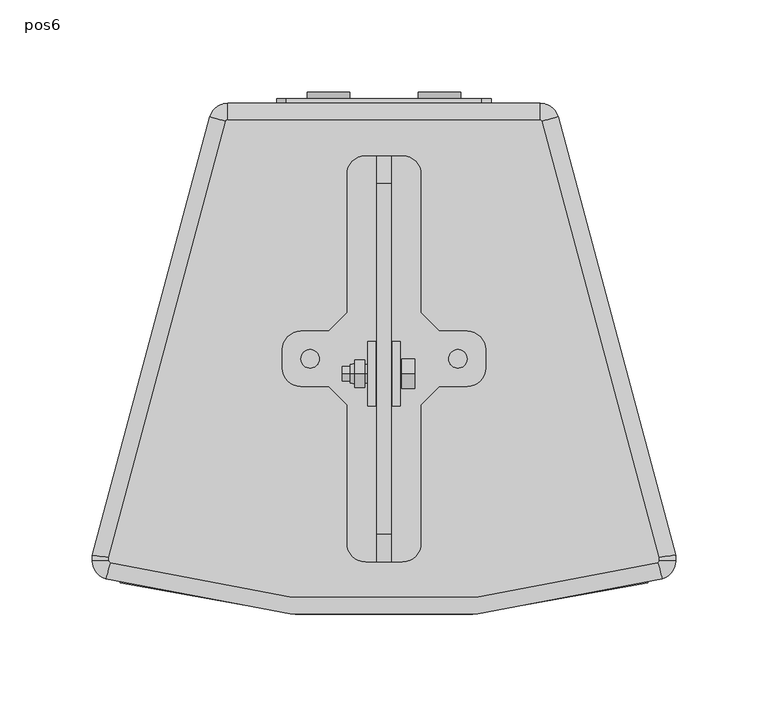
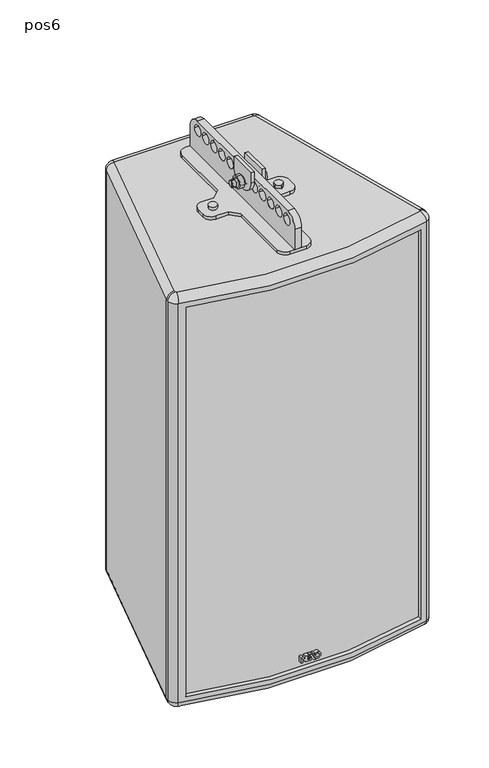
"""IFC4 building model written with IfcOpenShell, lengths in millimetres: proxy geometry, ePS10-BUMP-CVM : pos6."""

from ifc_helpers import new_model, si_unit, point, frame, frame_2d, origin, place, context, project, spatial, polyline, circle_curve, ellipse_curve, trimmed, segment, composite_curve, outline, extrude, source, transform, mapped, element, save
from ifc_brep_helpers import plane_surface, cylinder_surface, revolved_surface, advanced_brep


def pos6_98ff1bd9(model_context):
    return source(origin(), model_context, "Body", "SolidModel", [
        extrude(outline(composite_curve([segment(trimmed(circle_curve(frame_2d((-40.0511607, 8.0259228)), 5.0), [point((-45.0511607, 8.0259228))], [point((-35.0511607, 8.0259228))], False, "CARTESIAN"), True, "CONTINUOUS"), segment(trimmed(circle_curve(frame_2d((-40.0511607, 8.0259228)), 5.0), [point((-35.0511607, 8.0259228))], [point((-45.0511607, 8.0259228))], False, "CARTESIAN"), True, "CONTINUOUS")], self_intersect=False)), frame((0.0, 0.0, -86.0), z_axis=(0.0, 0.0, 1.0), x_axis=(1.0, 0.0, 0.0)), (0.0, 0.0, 1.0), 4.0),
        extrude(outline(composite_curve([segment(trimmed(circle_curve(frame_2d((40.0511607, 8.0259228)), 5.0), [point((45.0511607, 8.0259228))], [point((35.0511607, 8.0259228))], False, "CARTESIAN"), True, "CONTINUOUS"), segment(trimmed(circle_curve(frame_2d((40.0511607, 8.0259228)), 5.0), [point((35.0511607, 8.0259228))], [point((45.0511607, 8.0259228))], False, "CARTESIAN"), True, "CONTINUOUS")], self_intersect=False)), frame((0.0, 0.0, -86.0), z_axis=(0.0, 0.0, 1.0), x_axis=(1.0, 0.0, 0.0)), (0.0, 0.0, 1.0), 4.0),
        extrude(outline(composite_curve([segment(trimmed(circle_curve(frame_2d((103.0259228, -60.0)), 15.0), [point((103.0259228, -45.0))], [point((118.0259228, -60.0))], False, "CARTESIAN"), True, "CONTINUOUS"), segment(polyline([(118.0259228, -60.0), (118.0259228, -86.0), (-101.9740772, -86.0), (-101.9740772, -60.0)]), True, "CONTINUOUS"), segment(trimmed(circle_curve(frame_2d((-86.9740772, -60.0)), 15.0), [point((-101.9740772, -60.0))], [point((-86.9740772, -45.0))], False, "CARTESIAN"), True, "CONTINUOUS"), segment(polyline([(-86.9740772, -45.0), (103.0259228, -45.0)]), True, "CONTINUOUS")], self_intersect=False), holes=[composite_curve([segment(trimmed(circle_curve(frame_2d((0.0, -57.0)), 6.5), [point((-6.5, -57.0))], [point((6.5, -57.0))], True, "CARTESIAN"), True, "CONTINUOUS"), segment(trimmed(circle_curve(frame_2d((0.0, -57.0)), 6.5), [point((6.5, -57.0))], [point((-6.5, -57.0))], True, "CARTESIAN"), True, "CONTINUOUS")], self_intersect=False), composite_curve([segment(trimmed(circle_curve(frame_2d((-17.078125, -57.0)), 6.5), [point((-23.578125, -57.0))], [point((-10.578125, -57.0))], True, "CARTESIAN"), True, "CONTINUOUS"), segment(trimmed(circle_curve(frame_2d((-17.078125, -57.0)), 6.5), [point((-10.578125, -57.0))], [point((-23.578125, -57.0))], True, "CARTESIAN"), True, "CONTINUOUS")], self_intersect=False), composite_curve([segment(trimmed(circle_curve(frame_2d((-34.15625, -57.0)), 6.5), [point((-40.65625, -57.0))], [point((-27.65625, -57.0))], True, "CARTESIAN"), True, "CONTINUOUS"), segment(trimmed(circle_curve(frame_2d((-34.15625, -57.0)), 6.5), [point((-27.65625, -57.0))], [point((-40.65625, -57.0))], True, "CARTESIAN"), True, "CONTINUOUS")], self_intersect=False), composite_curve([segment(trimmed(circle_curve(frame_2d((-51.234375, -57.0)), 6.5), [point((-57.734375, -57.0))], [point((-44.734375, -57.0))], True, "CARTESIAN"), True, "CONTINUOUS"), segment(trimmed(circle_curve(frame_2d((-51.234375, -57.0)), 6.5), [point((-44.734375, -57.0))], [point((-57.734375, -57.0))], True, "CARTESIAN"), True, "CONTINUOUS")], self_intersect=False), composite_curve([segment(trimmed(circle_curve(frame_2d((-68.3125, -57.0)), 6.5), [point((-74.8125, -57.0))], [point((-61.8125, -57.0))], True, "CARTESIAN"), True, "CONTINUOUS"), segment(trimmed(circle_curve(frame_2d((-68.3125, -57.0)), 6.5), [point((-61.8125, -57.0))], [point((-74.8125, -57.0))], True, "CARTESIAN"), True, "CONTINUOUS")], self_intersect=False), composite_curve([segment(trimmed(circle_curve(frame_2d((-85.390625, -57.0)), 6.5), [point((-91.890625, -57.0))], [point((-78.890625, -57.0))], True, "CARTESIAN"), True, "CONTINUOUS"), segment(trimmed(circle_curve(frame_2d((-85.390625, -57.0)), 6.5), [point((-78.890625, -57.0))], [point((-91.890625, -57.0))], True, "CARTESIAN"), True, "CONTINUOUS")], self_intersect=False), composite_curve([segment(trimmed(circle_curve(frame_2d((17.1087587, -57.0)), 6.5), [point((23.6087587, -57.0))], [point((10.6087587, -57.0))], True, "CARTESIAN"), True, "CONTINUOUS"), segment(trimmed(circle_curve(frame_2d((17.1087587, -57.0)), 6.5), [point((10.6087587, -57.0))], [point((23.6087587, -57.0))], True, "CARTESIAN"), True, "CONTINUOUS")], self_intersect=False), composite_curve([segment(trimmed(circle_curve(frame_2d((34.1868837, -57.0)), 6.5), [point((40.6868837, -57.0))], [point((27.6868837, -57.0))], True, "CARTESIAN"), True, "CONTINUOUS"), segment(trimmed(circle_curve(frame_2d((34.1868837, -57.0)), 6.5), [point((27.6868837, -57.0))], [point((40.6868837, -57.0))], True, "CARTESIAN"), True, "CONTINUOUS")], self_intersect=False), composite_curve([segment(trimmed(circle_curve(frame_2d((51.2650087, -57.0)), 6.5), [point((57.7650087, -57.0))], [point((44.7650087, -57.0))], True, "CARTESIAN"), True, "CONTINUOUS"), segment(trimmed(circle_curve(frame_2d((51.2650087, -57.0)), 6.5), [point((44.7650087, -57.0))], [point((57.7650087, -57.0))], True, "CARTESIAN"), True, "CONTINUOUS")], self_intersect=False), composite_curve([segment(trimmed(circle_curve(frame_2d((68.3431337, -57.0)), 6.5), [point((74.8431337, -57.0))], [point((61.8431337, -57.0))], True, "CARTESIAN"), True, "CONTINUOUS"), segment(trimmed(circle_curve(frame_2d((68.3431337, -57.0)), 6.5), [point((61.8431337, -57.0))], [point((74.8431337, -57.0))], True, "CARTESIAN"), True, "CONTINUOUS")], self_intersect=False), composite_curve([segment(trimmed(circle_curve(frame_2d((85.4212587, -57.0)), 6.5), [point((91.9212587, -57.0))], [point((78.9212587, -57.0))], True, "CARTESIAN"), True, "CONTINUOUS"), segment(trimmed(circle_curve(frame_2d((85.4212587, -57.0)), 6.5), [point((78.9212587, -57.0))], [point((91.9212587, -57.0))], True, "CARTESIAN"), True, "CONTINUOUS")], self_intersect=False), composite_curve([segment(trimmed(circle_curve(frame_2d((102.4993837, -57.0)), 6.5), [point((108.9993837, -57.0))], [point((95.9993837, -57.0))], True, "CARTESIAN"), True, "CONTINUOUS"), segment(trimmed(circle_curve(frame_2d((102.4993837, -57.0)), 6.5), [point((95.9993837, -57.0))], [point((108.9993837, -57.0))], True, "CARTESIAN"), True, "CONTINUOUS")], self_intersect=False)]), frame((-4.0, 0.0, 0.0), z_axis=(1.0, 0.0, 0.0), x_axis=(0.0, 1.0, 0.0)), (0.0, 0.0, 1.0), 8.0),
        extrude(outline(composite_curve([segment(polyline([(-20.0, 33.0259228), (-20.0, 108.0259228)]), True, "CONTINUOUS"), segment(trimmed(circle_curve(frame_2d((-10.0, 108.0259228)), 10.0), [point((-20.0, 108.0259228))], [point((-10.0, 118.0259228))], False, "CARTESIAN"), True, "CONTINUOUS"), segment(polyline([(-10.0, 118.0259228), (10.0, 118.0259228)]), True, "CONTINUOUS"), segment(trimmed(circle_curve(frame_2d((10.0, 108.0259228)), 10.0), [point((10.0, 118.0259228))], [point((20.0, 108.0259228))], False, "CARTESIAN"), True, "CONTINUOUS"), segment(polyline([(20.0, 108.0259228), (20.0, 33.0259228), (30.0, 23.0259228), (45.0, 23.0259228)]), True, "CONTINUOUS"), segment(trimmed(circle_curve(frame_2d((45.0, 13.0259228)), 10.0), [point((45.0, 23.0259228))], [point((55.0, 13.0259228))], False, "CARTESIAN"), True, "CONTINUOUS"), segment(polyline([(55.0, 13.0259228), (55.0, 3.0259228)]), True, "CONTINUOUS"), segment(trimmed(circle_curve(frame_2d((45.0, 3.0259228)), 10.0), [point((55.0, 3.0259228))], [point((45.0, -6.9740772))], False, "CARTESIAN"), True, "CONTINUOUS"), segment(polyline([(45.0, -6.9740772), (30.0, -6.9740772), (20.0, -16.9740772), (20.0, -91.9740772)]), True, "CONTINUOUS"), segment(trimmed(circle_curve(frame_2d((10.0, -91.9740772)), 10.0), [point((20.0, -91.9740772))], [point((10.0, -101.9740772))], False, "CARTESIAN"), True, "CONTINUOUS"), segment(polyline([(10.0, -101.9740772), (-10.0, -101.9740772)]), True, "CONTINUOUS"), segment(trimmed(circle_curve(frame_2d((-10.0, -91.9740772)), 10.0), [point((-10.0, -101.9740772))], [point((-20.0, -91.9740772))], False, "CARTESIAN"), True, "CONTINUOUS"), segment(polyline([(-20.0, -91.9740772), (-20.0, -16.9740772), (-30.0, -6.9740772), (-45.0, -6.9740772)]), True, "CONTINUOUS"), segment(trimmed(circle_curve(frame_2d((-45.0, 3.0259228)), 10.0), [point((-45.0, -6.9740772))], [point((-55.0, 3.0259228))], False, "CARTESIAN"), True, "CONTINUOUS"), segment(polyline([(-55.0, 3.0259228), (-55.0, 13.0259228)]), True, "CONTINUOUS"), segment(trimmed(circle_curve(frame_2d((-45.0, 13.0259228)), 10.0), [point((-55.0, 13.0259228))], [point((-45.0, 23.0259228))], False, "CARTESIAN"), True, "CONTINUOUS"), segment(polyline([(-45.0, 23.0259228), (-30.0, 23.0259228), (-20.0, 33.0259228)]), True, "CONTINUOUS")], self_intersect=False), holes=[composite_curve([segment(trimmed(circle_curve(frame_2d((-40.0102651, 8.0259228)), 3.0), [point((-43.0102651, 8.0259228))], [point((-37.0102651, 8.0259228))], True, "CARTESIAN"), True, "CONTINUOUS"), segment(trimmed(circle_curve(frame_2d((-40.0102651, 8.0259228)), 3.0), [point((-37.0102651, 8.0259228))], [point((-43.0102651, 8.0259228))], True, "CARTESIAN"), True, "CONTINUOUS")], self_intersect=False), composite_curve([segment(trimmed(circle_curve(frame_2d((40.0102651, 8.0259228)), 3.0), [point((43.0102651, 8.0259228))], [point((37.0102651, 8.0259228))], True, "CARTESIAN"), True, "CONTINUOUS"), segment(trimmed(circle_curve(frame_2d((40.0102651, 8.0259228)), 3.0), [point((37.0102651, 8.0259228))], [point((43.0102651, 8.0259228))], True, "CARTESIAN"), True, "CONTINUOUS")], self_intersect=False)]), frame((0.0, 0.0, -90.0), z_axis=(0.0, 0.0, 1.0), x_axis=(1.0, 0.0, 0.0)), (0.0, 0.0, 1.0), 4.0),
        extrude(outline(composite_curve([segment(trimmed(circle_curve(frame_2d((-595.2298911, 8.0750207)), 3.9406238), [point((-595.2298911, 4.1343969))], [point((-595.2298911, 12.0156446))], False, "CARTESIAN"), True, "CONTINUOUS"), segment(trimmed(circle_curve(frame_2d((-595.2298911, 8.0750207)), 3.9406238), [point((-595.2298911, 12.0156446))], [point((-595.2298911, 4.1343969))], False, "CARTESIAN"), True, "CONTINUOUS")], self_intersect=False), holes=[composite_curve([segment(trimmed(circle_curve(frame_2d((-595.2298911, 8.0750207)), 2.0681078), [point((-595.2298911, 6.0069129))], [point((-595.2298911, 10.1431285))], True, "CARTESIAN"), True, "CONTINUOUS"), segment(trimmed(circle_curve(frame_2d((-595.2298911, 8.0750207)), 2.0681078), [point((-595.2298911, 10.1431285))], [point((-595.2298911, 6.0069129))], True, "CARTESIAN"), True, "CONTINUOUS")], self_intersect=False)]), frame((0.0, -129.4740772, 0.0), z_axis=(0.0, 1.0, 0.0), x_axis=(0.0, 0.0, 1.0)), (0.0, 0.0, 1.0), 5.0),
        extrude(outline(polyline([(-591.5590531, -11.9363528), (-598.8388202, -11.9363528), (-598.8388202, -10.0439855), (-594.6734899, -10.0439855), (-598.8388202, -7.2688886), (-598.8388202, -0.4179789), (-596.963849, 0.9005934), (-595.3643156, -0.1627837), (-597.2361557, -1.5323263), (-597.2361557, -4.5659556), (-595.9818684, -4.5659556), (-595.9818684, -2.2828427), (-594.3791381, -2.2828427), (-594.3791381, -4.5659556), (-593.1626349, -4.5659556), (-593.1626349, -2.1588809), (-592.3626349, -2.1588809), (-591.5599046, -2.6925396), (-591.5599046, -6.9609157), (-596.0099607, -6.9706073), (-591.5590531, -9.9098734), (-591.5590531, -11.9363528)])), frame((0.0, -129.4740772, 0.0), z_axis=(0.0, 1.0, 0.0), x_axis=(0.0, 0.0, 1.0)), (0.0, 0.0, 1.0), 5.0),
        extrude(outline(polyline([(-591.5590531, -2.0512245), (-599.8, 3.4273947), (-599.8, 5.6205974), (-591.5590531, 0.1419782), (-591.5590531, -2.0512245)])), frame((0.0, -129.4740772, 0.0), z_axis=(0.0, 1.0, 0.0), x_axis=(0.0, 0.0, 1.0)), (0.0, 0.0, 1.0), 5.0),
        extrude(outline(polyline([(-591.5590531, 4.6894095), (-591.5590531, 2.362619), (-592.8270101, 1.6148247), (-594.457904, 2.6990504), (-591.5590531, 4.6894095)])), frame((0.0, -129.4740772, 0.0), z_axis=(0.0, 1.0, 0.0), x_axis=(0.0, 0.0, 1.0)), (0.0, 0.0, 1.0), 5.0),
        extrude(outline(composite_curve([segment(trimmed(circle_curve(frame_2d((-583.5, -30.0)), 11.4515227), [point((-583.5, -18.5484773))], [point((-583.5, -41.4515227))], False, "CARTESIAN"), True, "CONTINUOUS"), segment(trimmed(circle_curve(frame_2d((-583.5, -30.0)), 11.4515227), [point((-583.5, -41.4515227))], [point((-583.5, -18.5484773))], False, "CARTESIAN"), True, "CONTINUOUS")], self_intersect=False), holes=[composite_curve([segment(trimmed(circle_curve(frame_2d((-583.5, -30.0)), 5.0), [point((-583.5, -25.0))], [point((-583.5, -35.0))], True, "CARTESIAN"), True, "CONTINUOUS"), segment(trimmed(circle_curve(frame_2d((-583.5, -30.0)), 5.0), [point((-583.5, -35.0))], [point((-583.5, -25.0))], True, "CARTESIAN"), True, "CONTINUOUS")], self_intersect=False)]), frame((0.0, 149.1206583, 0.0), z_axis=(0.0, 1.0, 0.0), x_axis=(0.0, 0.0, 1.0)), (0.0, 0.0, 1.0), 3.4052646),
        extrude(outline(composite_curve([segment(trimmed(circle_curve(frame_2d((-583.5, 30.0)), 11.4515227), [point((-583.5, 41.4515227))], [point((-583.5, 18.5484773))], False, "CARTESIAN"), True, "CONTINUOUS"), segment(trimmed(circle_curve(frame_2d((-583.5, 30.0)), 11.4515227), [point((-583.5, 18.5484773))], [point((-583.5, 41.4515227))], False, "CARTESIAN"), True, "CONTINUOUS")], self_intersect=False), holes=[composite_curve([segment(trimmed(circle_curve(frame_2d((-583.5, 30.0)), 5.0), [point((-583.5, 35.0))], [point((-583.5, 25.0))], True, "CARTESIAN"), True, "CONTINUOUS"), segment(trimmed(circle_curve(frame_2d((-583.5, 30.0)), 5.0), [point((-583.5, 25.0))], [point((-583.5, 35.0))], True, "CARTESIAN"), True, "CONTINUOUS")], self_intersect=False)]), frame((0.0, 149.1206583, 0.0), z_axis=(0.0, 1.0, 0.0), x_axis=(0.0, 0.0, 1.0)), (0.0, 0.0, 1.0), 3.4052646),
        extrude(outline(composite_curve([segment(polyline([(-564.5, 53.0), (-564.5, -53.0)]), True, "CONTINUOUS"), segment(trimmed(circle_curve(frame_2d((-569.5, -53.0)), 5.0), [point((-564.5, -53.0))], [point((-569.5, -58.0))], False, "CARTESIAN"), True, "CONTINUOUS"), segment(polyline([(-569.5, -58.0), (-597.5, -58.0)]), True, "CONTINUOUS"), segment(trimmed(circle_curve(frame_2d((-597.5, -53.0)), 5.0), [point((-597.5, -58.0))], [point((-602.5, -53.0))], False, "CARTESIAN"), True, "CONTINUOUS"), segment(polyline([(-602.5, -53.0), (-602.5, 53.0)]), True, "CONTINUOUS"), segment(trimmed(circle_curve(frame_2d((-597.5, 53.0)), 5.0), [point((-602.5, 53.0))], [point((-597.5, 58.0))], False, "CARTESIAN"), True, "CONTINUOUS"), segment(polyline([(-597.5, 58.0), (-569.5, 58.0)]), True, "CONTINUOUS"), segment(trimmed(circle_curve(frame_2d((-569.5, 53.0)), 5.0), [point((-569.5, 58.0))], [point((-564.5, 53.0))], False, "CARTESIAN"), True, "CONTINUOUS")], self_intersect=False)), frame((0.0, 146.6206583, 0.0), z_axis=(0.0, 1.0, 0.0), x_axis=(0.0, 0.0, 1.0)), (0.0, 0.0, 1.0), 2.5),
        advanced_brep(
        [(0.0, 3.0259228, -94.0), (0.0, 13.0259228, -94.0), (0.0, 13.0259228, -90.0), (0.0, 3.0259228, -90.0), (40.0, 3.0259228, -94.0), (40.0, 13.0259228, -94.0), (40.0, 13.0259228, -90.0), (40.0, 3.0259228, -90.0), (-143.0, -113.3746266, -105.0), (-143.0, -108.1907902, -105.0), (143.0, -108.1907902, -105.0), (143.0, -113.3746266, -105.0), (143.0, -113.3746266, -606.0), (143.0, -108.1907902, -606.0), (-143.0, -108.1907902, -606.0), (-143.0, -113.3746266, -606.0), (0.0, 13.0259228, -617.0), (0.0, 3.0259228, -617.0), (-40.0, 13.0259228, -617.0), (-40.0, 3.0259228, -617.0), (40.0, 13.0259228, -617.0), (40.0, 3.0259228, -617.0), (-158.0, -98.4045543, -98.9917234), (-94.3316806, 139.2088487, -98.9917234), (-94.3316806, 139.2088487, -612.0), (-158.0, -98.4045543, -612.0), (-158.0, -101.5881594, -98.9917234), (-158.0, -101.5881594, -612.0), (150.7700973, -111.1968305, -98.9917234), (-150.7700973, -111.1968305, -98.9917234), (-150.7700973, -111.1968305, -612.000006), (150.7700973, -111.1968305, -612.0), (158.0, -98.4045543, -98.9917234), (158.0, -101.5881594, -98.9917234), (158.0, -101.5881594, -612.0), (158.0, -98.4045543, -612.0), (94.3316806, 139.2088487, -98.9917234), (94.3316806, 139.2088487, -612.0), (84.6724223, 146.6206583, -98.9917234), (84.6724223, 146.6206583, -612.0), (-40.6566026, 140.5259228, -285.5), (-29.3432823, 140.5259228, -285.5), (-29.3432823, 146.6206583, -285.5), (-40.6566026, 146.6206583, -285.5), (-149.0082766, -101.5881594, -90.0), (-148.2793024, -102.5569793, -90.0), (148.2793024, -102.5569793, -90.0), (149.0082766, -101.5881594, -90.0), (149.0082766, -99.5883371, -90.0), (85.6463427, 136.8816195, -90.0), (84.6724223, 137.6289349, -90.0), (-84.6724223, 146.6206583, -98.9917234), (-84.6724223, 137.6289349, -90.0), (-85.6463427, 136.8816195, -90.0), (-149.0082766, -99.5883371, -90.0), (-40.0, 3.0259228, -90.0), (-40.0, 13.0259228, -90.0), (84.6724223, 137.6206583, -621.0), (85.6383481, 136.8794773, -621.0), (149.0, -99.5894268, -621.0), (149.0, -101.5881594, -621.0), (148.2770097, -102.5490265, -621.0), (-148.2770097, -102.5490265, -621.0), (-149.0, -101.5881594, -621.0), (-149.0, -99.5894268, -621.0), (-85.6383481, 136.8794773, -621.0), (-84.6724223, 137.6206583, -621.0), (0.0, 13.0259228, -621.0), (0.0, 3.0259228, -621.0), (-40.0, 13.0259228, -621.0), (-40.0, 3.0259228, -621.0), (40.0, 13.0259228, -621.0), (40.0, 3.0259228, -621.0), (-40.0, 13.0259228, -94.0), (-40.0, 3.0259228, -94.0), (40.6567177, 140.5259228, -355.5), (29.3433974, 140.5259228, -355.5), (-29.3432823, 140.5259228, -355.5), (-40.6566026, 140.5259228, -355.5), (29.3433974, 146.6206583, -355.5), (40.6567177, 146.6206583, -355.5), (-84.6724223, 146.6206583, -612.0), (-29.3432823, 146.6206583, -355.5), (-40.6566026, 146.6206583, -355.5)],
        [
            (0, 1, circle_curve(frame((0.0, 8.0259228, -94.0), z_axis=(0.0, 0.0, -1.0), x_axis=(0.0, -1.0, 0.0)), 5.0)),
            (1, 2),
            (2, 3, circle_curve(frame((0.0, 8.0259228, -90.0), z_axis=(0.0, 0.0, 1.0), x_axis=(0.0, -1.0, 0.0)), 5.0)),
            (3, 0),
            (4, 5, circle_curve(frame((40.0, 8.0259228, -94.0), z_axis=(0.0, 0.0, -1.0), x_axis=(0.0, -1.0, 0.0)), 5.0)),
            (5, 6),
            (6, 7, circle_curve(frame((40.0, 8.0259228, -90.0), z_axis=(0.0, 0.0, 1.0), x_axis=(0.0, -1.0, 0.0)), 5.0)),
            (7, 4),
            (8, 9),
            (9, 10, circle_curve(frame((0.0, 411.7812942, -105.0), z_axis=(0.0, 0.0, 1.0), x_axis=(1.0, 0.0, 0.0)), 539.277265)),
            (10, 11),
            (11, 8, circle_curve(frame((0.0, 411.7812942, -105.0), z_axis=(0.0, 0.0, -1.0), x_axis=(1.0, 0.0, 0.0)), 544.277265)),
            (12, 13),
            (13, 14, circle_curve(frame((0.0, 411.7812942, -606.0), z_axis=(0.0, 0.0, -1.0), x_axis=(1.0, 0.0, 0.0)), 539.277265)),
            (14, 15),
            (15, 12, circle_curve(frame((0.0, 411.7812942, -606.0), z_axis=(0.0, 0.0, 1.0), x_axis=(1.0, 0.0, 0.0)), 544.277265)),
            (16, 17, circle_curve(frame((0.0, 8.0259228, -617.0), z_axis=(0.0, 0.0, -1.0), x_axis=(0.0, -1.0, 0.0)), 5.0)),
            (17, 16, circle_curve(frame((0.0, 8.0259228, -617.0), z_axis=(0.0, 0.0, -1.0), x_axis=(0.0, -1.0, 0.0)), 5.0)),
            (18, 19, circle_curve(frame((-40.0, 8.0259228, -617.0), z_axis=(0.0, 0.0, -1.0), x_axis=(0.0, -1.0, 0.0)), 5.0)),
            (19, 18, circle_curve(frame((-40.0, 8.0259228, -617.0), z_axis=(0.0, 0.0, -1.0), x_axis=(0.0, -1.0, 0.0)), 5.0)),
            (20, 21, circle_curve(frame((40.0, 8.0259228, -617.0), z_axis=(0.0, 0.0, -1.0), x_axis=(0.0, -1.0, 0.0)), 5.0)),
            (21, 20, circle_curve(frame((40.0, 8.0259228, -617.0), z_axis=(0.0, 0.0, -1.0), x_axis=(0.0, -1.0, 0.0)), 5.0)),
            (22, 23),
            (23, 24),
            (24, 25),
            (25, 22),
            (26, 22),
            (25, 27),
            (27, 26),
            (28, 29, circle_curve(frame((0.0, 411.7812942, -98.9917234), z_axis=(0.0, 0.0, -1.0), x_axis=(1.0, 0.0, 0.0)), 544.277265)),
            (29, 30),
            (30, 31, circle_curve(frame((0.0, 411.7812942, -612.0), z_axis=(0.0, 0.0, 1.0), x_axis=(1.0, 0.0, 0.0)), 544.277265)),
            (31, 28),
            (11, 12),
            (15, 8),
            (32, 33),
            (33, 34),
            (34, 35),
            (35, 32),
            (36, 32),
            (35, 37),
            (37, 36),
            (38, 36, circle_curve(frame((84.6724223, 136.6206583, -98.9917234), z_axis=(0.0, 0.0, -1.0), x_axis=(1.0, 0.0, 0.0)), 10.0)),
            (37, 39, circle_curve(frame((84.6724223, 136.6206583, -612.0), z_axis=(0.0, 0.0, 1.0), x_axis=(1.0, 0.0, 0.0)), 10.0)),
            (39, 38),
            (29, 26, circle_curve(frame((-148.0, -101.5881594, -98.9917234), z_axis=(0.0, 0.0, -1.0), x_axis=(1.0, 0.0, 0.0)), 10.0)),
            (27, 30, circle_curve(frame((-148.0, -101.5881594, -612.0), z_axis=(0.0, 0.0, 1.0), x_axis=(1.0, 0.0, 0.0)), 10.0)),
            (33, 28, circle_curve(frame((148.0, -101.5881594, -98.9917234), z_axis=(0.0, 0.0, -1.0), x_axis=(1.0, 0.0, 0.0)), 10.0)),
            (31, 34, circle_curve(frame((148.0, -101.5881594, -612.0), z_axis=(0.0, 0.0, 1.0), x_axis=(1.0, 0.0, 0.0)), 10.0)),
            (40, 41, circle_curve(frame((-34.9999424, 140.5259228, -285.5), z_axis=(0.0, -1.0, 0.0), x_axis=(-1.0, 0.0, 0.0)), 5.6566602)),
            (41, 42),
            (42, 43, circle_curve(frame((-34.9999424, 146.6206583, -285.5), z_axis=(0.0, 1.0, 0.0), x_axis=(-1.0, 0.0, 0.0)), 5.6566602)),
            (43, 40),
            (41, 40, circle_curve(frame((-34.9999424, 140.5259228, -285.5), z_axis=(0.0, -1.0, 0.0), x_axis=(-1.0, 0.0, 0.0)), 5.6566602)),
            (43, 42, circle_curve(frame((-34.9999424, 146.6206583, -285.5), z_axis=(0.0, 1.0, 0.0), x_axis=(-1.0, 0.0, 0.0)), 5.6566602)),
            (10, 13),
            (44, 26, circle_curve(frame((-149.0082766, -101.5881594, -98.9917234), z_axis=(0.0, -1.0, 0.0), x_axis=(1.0, 0.0, 0.0)), 8.9917234)),
            (29, 45, circle_curve(frame((-148.2793024, -102.5569793, -98.9917234), z_axis=(-0.9608671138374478, 0.2770097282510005, 0.0), x_axis=(0.2770097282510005, 0.9608671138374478, 0.0)), 8.9917234)),
            (45, 44, circle_curve(frame((-148.0, -101.5881594, -90.0), z_axis=(0.0, 0.0, -1.0), x_axis=(-1.0, 0.0, 0.0)), 1.0082766)),
            (28, 46, circle_curve(frame((148.2793024, -102.5569793, -98.9917234), z_axis=(-0.9608671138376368, -0.2770097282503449, 0.0), x_axis=(-0.2770097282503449, 0.9608671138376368, 0.0)), 8.9917234)),
            (46, 45, circle_curve(frame((0.0, 411.7812942, -90.0), z_axis=(0.0, 0.0, -1.0), x_axis=(-0.2770097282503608, -0.9608671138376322, 0.0)), 535.2855417)),
            (33, 47, circle_curve(frame((149.0082766, -101.5881594, -98.9917234), z_axis=(0.0, -1.0, 0.0), x_axis=(-1.0, 0.0, 0.0)), 8.9917234)),
            (47, 46, circle_curve(frame((148.0, -101.5881594, -90.0), z_axis=(0.0, 0.0, -1.0), x_axis=(0.27700972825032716, -0.9608671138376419, 0.0)), 1.0082766)),
            (32, 48, ellipse_curve(frame((149.0082766, -99.5883371, -98.9917234), z_axis=(0.13052619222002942, -0.9914448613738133, 0.0), x_axis=(0.991444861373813, 0.1305261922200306, 0.0)), 9.0693126, 8.9917234)),
            (48, 47),
            (36, 49, circle_curve(frame((85.6463427, 136.8816195, -98.9917234), z_axis=(0.25881904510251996, -0.9659258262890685, 0.0), x_axis=(-0.9659258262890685, -0.25881904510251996, 0.0)), 8.9917234)),
            (49, 48),
            (38, 50, circle_curve(frame((84.6724223, 137.6289349, -98.9917234), z_axis=(1.0, 0.0, 0.0), x_axis=(0.0, -1.0, 0.0)), 8.9917234)),
            (50, 49, circle_curve(frame((84.6724223, 136.6206583, -90.0), z_axis=(0.0, 0.0, -1.0), x_axis=(0.96592582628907, 0.25881904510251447, 0.0)), 1.0082766)),
            (51, 52, circle_curve(frame((-84.6724223, 137.6289349, -98.9917234), z_axis=(1.0, 0.0, 0.0), x_axis=(0.0, -1.0, 0.0)), 8.9917234)),
            (52, 50),
            (38, 51),
            (52, 53, circle_curve(frame((-84.6724223, 136.6206583, -90.0), z_axis=(0.0, 0.0, 1.0), x_axis=(0.0, 1.0, 0.0)), 1.0082766)),
            (53, 54),
            (54, 44),
            (2, 3, circle_curve(frame((0.0, 8.0259228, -90.0), z_axis=(0.0, 0.0, -1.0), x_axis=(0.0, -1.0, 0.0)), 5.0)),
            (55, 56, circle_curve(frame((-40.0, 8.0259228, -90.0), z_axis=(0.0, 0.0, -1.0), x_axis=(0.0, -1.0, 0.0)), 5.0)),
            (56, 55, circle_curve(frame((-40.0, 8.0259228, -90.0), z_axis=(0.0, 0.0, -1.0), x_axis=(0.0, -1.0, 0.0)), 5.0)),
            (6, 7, circle_curve(frame((40.0, 8.0259228, -90.0), z_axis=(0.0, 0.0, -1.0), x_axis=(0.0, -1.0, 0.0)), 5.0)),
            (57, 58, circle_curve(frame((84.6724223, 136.6206583, -621.0), z_axis=(0.0, 0.0, -1.0), x_axis=(0.0, 1.0, 0.0)), 1.0)),
            (58, 59),
            (59, 60),
            (60, 61, circle_curve(frame((148.0, -101.5881594, -621.0), z_axis=(0.0, 0.0, -1.0), x_axis=(1.0, 0.0, 0.0)), 1.0)),
            (61, 62, circle_curve(frame((0.0, 411.7812942, -621.0), z_axis=(0.0, 0.0, -1.0), x_axis=(0.2770097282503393, -0.9608671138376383, 0.0)), 535.277265)),
            (62, 63, circle_curve(frame((-148.0, -101.5881594, -621.0), z_axis=(0.0, 0.0, -1.0), x_axis=(-0.2770097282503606, -0.9608671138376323, 0.0)), 1.0)),
            (63, 64),
            (64, 65),
            (65, 66, circle_curve(frame((-84.6724223, 136.6206583, -621.0), z_axis=(0.0, 0.0, -1.0), x_axis=(-0.9659258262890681, 0.2588190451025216, 0.0)), 1.0)),
            (66, 57),
            (67, 68, circle_curve(frame((0.0, 8.0259228, -621.0), z_axis=(0.0, 0.0, 1.0), x_axis=(0.0, -1.0, 0.0)), 5.0)),
            (68, 67, circle_curve(frame((0.0, 8.0259228, -621.0), z_axis=(0.0, 0.0, 1.0), x_axis=(0.0, -1.0, 0.0)), 5.0)),
            (69, 70, circle_curve(frame((-40.0, 8.0259228, -621.0), z_axis=(0.0, 0.0, 1.0), x_axis=(0.0, -1.0, 0.0)), 5.0)),
            (70, 69, circle_curve(frame((-40.0, 8.0259228, -621.0), z_axis=(0.0, 0.0, 1.0), x_axis=(0.0, -1.0, 0.0)), 5.0)),
            (71, 72, circle_curve(frame((40.0, 8.0259228, -621.0), z_axis=(0.0, 0.0, 1.0), x_axis=(0.0, -1.0, 0.0)), 5.0)),
            (72, 71, circle_curve(frame((40.0, 8.0259228, -621.0), z_axis=(0.0, 0.0, 1.0), x_axis=(0.0, -1.0, 0.0)), 5.0)),
            (0, 1, circle_curve(frame((0.0, 8.0259228, -94.0), z_axis=(0.0, 0.0, 1.0), x_axis=(0.0, -1.0, 0.0)), 5.0)),
            (73, 74, circle_curve(frame((-40.0, 8.0259228, -94.0), z_axis=(0.0, 0.0, 1.0), x_axis=(0.0, -1.0, 0.0)), 5.0)),
            (74, 73, circle_curve(frame((-40.0, 8.0259228, -94.0), z_axis=(0.0, 0.0, 1.0), x_axis=(0.0, -1.0, 0.0)), 5.0)),
            (4, 5, circle_curve(frame((40.0, 8.0259228, -94.0), z_axis=(0.0, 0.0, 1.0), x_axis=(0.0, -1.0, 0.0)), 5.0)),
            (17, 68),
            (67, 16),
            (19, 70),
            (69, 18),
            (21, 72),
            (71, 20),
            (75, 76, circle_curve(frame((35.0000576, 140.5259228, -355.5), z_axis=(0.0, 1.0, 0.0), x_axis=(-1.0, 0.0, 0.0)), 5.6566602)),
            (76, 75, circle_curve(frame((35.0000576, 140.5259228, -355.5), z_axis=(0.0, 1.0, 0.0), x_axis=(-1.0, 0.0, 0.0)), 5.6566602)),
            (77, 78, circle_curve(frame((-34.9999424, 140.5259228, -355.5), z_axis=(0.0, 1.0, 0.0), x_axis=(-1.0, 0.0, 0.0)), 5.6566602)),
            (78, 77, circle_curve(frame((-34.9999424, 140.5259228, -355.5), z_axis=(0.0, 1.0, 0.0), x_axis=(-1.0, 0.0, 0.0)), 5.6566602)),
            (76, 79),
            (79, 80, circle_curve(frame((35.0000576, 146.6206583, -355.5), z_axis=(0.0, 1.0, 0.0), x_axis=(-1.0, 0.0, 0.0)), 5.6566602)),
            (80, 75),
            (80, 79, circle_curve(frame((35.0000576, 146.6206583, -355.5), z_axis=(0.0, 1.0, 0.0), x_axis=(-1.0, 0.0, 0.0)), 5.6566602)),
            (39, 81),
            (81, 51),
            (82, 83, circle_curve(frame((-34.9999424, 146.6206583, -355.5), z_axis=(0.0, -1.0, 0.0), x_axis=(-1.0, 0.0, 0.0)), 5.6566602)),
            (83, 82, circle_curve(frame((-34.9999424, 146.6206583, -355.5), z_axis=(0.0, -1.0, 0.0), x_axis=(-1.0, 0.0, 0.0)), 5.6566602)),
            (9, 14),
            (23, 53, circle_curve(frame((-85.6463427, 136.8816195, -98.9917234), z_axis=(0.2588190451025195, 0.9659258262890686, 0.0), x_axis=(0.9659258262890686, -0.2588190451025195, 0.0)), 8.9917234)),
            (51, 23, circle_curve(frame((-84.6724223, 136.6206583, -98.9917234), z_axis=(0.0, 0.0, 1.0), x_axis=(0.0, 1.0, 0.0)), 10.0)),
            (22, 54, ellipse_curve(frame((-149.0082766, -99.5883371, -98.9917234), z_axis=(0.1305261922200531, 0.9914448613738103, 0.0), x_axis=(-0.99144486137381, 0.1305261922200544, 0.0)), 9.0693126, 8.9917234)),
            (61, 31, circle_curve(frame((148.2770097, -102.5490265, -612.0), z_axis=(-0.9608671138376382, -0.27700972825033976, 0.0), x_axis=(-0.27700972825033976, 0.9608671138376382, 0.0)), 9.0)),
            (30, 62, circle_curve(frame((-148.2770097, -102.5490265, -612.0), z_axis=(0.9608671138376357, -0.27700972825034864, 0.0), x_axis=(0.27700972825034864, 0.9608671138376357, 0.0)), 9.0)),
            (27, 63, circle_curve(frame((-149.0, -101.5881594, -612.0), z_axis=(0.0, -1.0, 0.0), x_axis=(1.0, 0.0, 0.0)), 9.0)),
            (25, 64, ellipse_curve(frame((-149.0, -99.5894268, -612.0), z_axis=(-0.13052619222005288, -0.9914448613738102, 0.0), x_axis=(-0.99144486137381, 0.13052619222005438, 0.0)), 9.0776606, 9.0)),
            (24, 65, circle_curve(frame((-85.6383481, 136.8794773, -612.0), z_axis=(-0.2588190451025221, -0.965925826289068, 0.0), x_axis=(0.965925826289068, -0.2588190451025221, 0.0)), 9.0)),
            (24, 81, circle_curve(frame((-84.6724223, 136.6206583, -612.0), z_axis=(0.0, 0.0, -1.0), x_axis=(-0.9659258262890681, 0.2588190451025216, 0.0)), 10.0)),
            (81, 66, circle_curve(frame((-84.6724223, 137.6206583, -612.0), z_axis=(-1.0000000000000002, 0.0, 0.0), x_axis=(0.0, -1.0000000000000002, 0.0)), 9.0)),
            (39, 57, circle_curve(frame((84.6724223, 137.6206583, -612.0), z_axis=(-1.0, 0.0, 0.0), x_axis=(0.0, -1.0, 0.0)), 9.0)),
            (73, 56),
            (55, 74),
            (78, 83),
            (82, 77),
            (37, 58, circle_curve(frame((85.6383481, 136.8794773, -612.0), z_axis=(-0.2588190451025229, 0.9659258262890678, 0.0), x_axis=(-0.9659258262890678, -0.2588190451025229, 0.0)), 9.0)),
            (35, 59, ellipse_curve(frame((149.0, -99.5894268, -612.0), z_axis=(-0.1305261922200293, 0.9914448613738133, 0.0), x_axis=(0.9914448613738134, 0.13052619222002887, 0.0)), 9.0776606, 9.0)),
            (34, 60, circle_curve(frame((149.0, -101.5881594, -612.0), z_axis=(0.0, 1.0, 0.0), x_axis=(-1.0, 0.0, 0.0)), 9.0)),
        ],
        [
            revolved_surface(polyline([(0.0, 3.0259228, -90.0), (0.0, 3.0259228, -94.0)]), (0.0, 8.0259228, -94.0), (0.0, 0.0, 1.0)),
            revolved_surface(polyline([(40.0, 3.0259228, -90.0), (40.0, 3.0259228, -94.0)]), (40.0, 8.0259228, -90.0), (0.0, 0.0, 1.0)),
            plane_surface(frame((143.0, -178.7339949, -105.0), z_axis=(0.0, 0.0, -1.0), x_axis=(0.0, 1.0, 0.0))),
            plane_surface(frame((143.0, -178.7339949, -606.0), z_axis=(0.0, 0.0, 1.0), x_axis=(0.0, -1.0, 0.0))),
            plane_surface(frame((0.0, 3.0259228, -617.0), z_axis=(0.0, 0.0, -1.0), x_axis=(1.0, 0.0, 0.0))),
            plane_surface(frame((-94.3316806, 139.2088487, -90.0), z_axis=(-0.9659258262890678, 0.2588190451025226, 0.0), x_axis=(0.0, 0.0, -1.0))),
            plane_surface(frame((-158.0, -98.4045543, -90.0), z_axis=(-1.0, 0.0, 0.0), x_axis=(0.0, 0.0, -1.0))),
            cylinder_surface(frame((0.0, 411.7812942, -621.0), z_axis=(0.0, 0.0, 1.0), x_axis=(1.0, 0.0, 0.0)), 544.277265),
            plane_surface(frame((158.0, -101.5881594, -90.0), z_axis=(1.0, 0.0, 0.0), x_axis=(0.0, 0.0, -1.0))),
            plane_surface(frame((158.0, -98.4045543, -90.0), z_axis=(0.9659258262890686, 0.25881904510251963, 0.0), x_axis=(0.0, 0.0, -1.0))),
            cylinder_surface(frame((84.6724223, 136.6206583, -621.0), z_axis=(0.0, 0.0, 1.0), x_axis=(1.0, 0.0, 0.0)), 10.0),
            cylinder_surface(frame((-148.0, -101.5881594, -621.0), z_axis=(0.0, 0.0, 1.0), x_axis=(1.0, 0.0, 0.0)), 10.0),
            cylinder_surface(frame((148.0, -101.5881594, -621.0), z_axis=(0.0, 0.0, 1.0), x_axis=(1.0, 0.0, 0.0)), 10.0),
            revolved_surface(polyline([(-40.6566026, 146.6206583, -285.5), (-40.6566026, 140.5259228, -285.5)]), (-34.9999424, 152.5259228, -285.5), (0.0, 1.0, 0.0)),
            plane_surface(frame((143.0, -113.3746266, -105.0), z_axis=(-1.0, 0.0, 0.0), x_axis=(0.0, 0.0, -1.0))),
            revolved_surface(trimmed(ellipse_curve(frame((-149.0082766, -101.5881594, -98.9917234), z_axis=(0.0, 1.0, 0.0), x_axis=(1.0, 0.0, 0.0)), 8.9917234, 8.9917234), [point((-158.0, -101.5881594, -98.9917234))], [point((-149.0082766, -101.5881594, -90.0))], True, "CARTESIAN"), (-148.0, -101.5881594, -90.0), (0.0, 0.0, 1.0)),
            revolved_surface(trimmed(ellipse_curve(frame((-148.2793024, -102.5569793, -98.9917234), z_axis=(-0.9608671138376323, 0.2770097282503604, 0.0), x_axis=(0.2770097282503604, 0.9608671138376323, 0.0)), 8.9917234, 8.9917234), [point((-150.7700973, -111.1968305, -98.9917234))], [point((-148.2793024, -102.5569793, -90.0))], True, "CARTESIAN"), (0.0, 411.7812942, -90.0), (0.0, 0.0, 1.0)),
            revolved_surface(trimmed(ellipse_curve(frame((148.2793024, -102.5569793, -98.9917234), z_axis=(-0.9608671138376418, -0.2770097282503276, 0.0), x_axis=(-0.2770097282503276, 0.9608671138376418, 0.0)), 8.9917234, 8.9917234), [point((150.7700973, -111.1968305, -98.9917234))], [point((148.2793024, -102.5569793, -90.0))], True, "CARTESIAN"), (148.0, -101.5881594, -90.0), (0.0, 0.0, 1.0)),
            cylinder_surface(frame((149.0082766, -101.5881594, -98.9917234), z_axis=(0.0, 1.0, 0.0), x_axis=(-1.0, 0.0, 0.0)), 8.9917234),
            cylinder_surface(frame((149.3146622, -100.7317835, -98.9917234), z_axis=(-0.25881904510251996, 0.9659258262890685, 0.0), x_axis=(-0.9659258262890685, -0.25881904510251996, 0.0)), 8.9917234),
            revolved_surface(trimmed(ellipse_curve(frame((85.6463427, 136.8816195, -98.9917234), z_axis=(0.25881904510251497, -0.9659258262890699, 0.0), x_axis=(-0.9659258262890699, -0.25881904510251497, 0.0)), 8.9917234, 8.9917234), [point((94.3316806, 139.2088487, -98.9917234))], [point((85.6463427, 136.8816195, -90.0))], True, "CARTESIAN"), (84.6724223, 136.6206583, -90.0), (0.0, 0.0, 1.0)),
            cylinder_surface(frame((84.6724223, 137.6289349, -98.9917234), z_axis=(-1.0, 0.0, 0.0), x_axis=(0.0, -1.0, 0.0)), 8.9917234),
            plane_surface(frame((-85.0560858, 146.6206583, -90.0), z_axis=(0.0, 0.0, 1.0), x_axis=(-1.0, 0.0, 0.0))),
            plane_surface(frame((-85.0560858, 146.6206583, -621.0), z_axis=(0.0, 0.0, -1.0), x_axis=(1.0, 0.0, 0.0))),
            plane_surface(frame((0.0, 3.0259228, -94.0), z_axis=(0.0, 0.0, 1.0), x_axis=(-1.0, 0.0, 0.0))),
            revolved_surface(polyline([(0.0, 3.0259228, -617.0), (0.0, 3.0259228, -621.0)]), (0.0, 8.0259228, -625.0), (0.0, 0.0, 1.0)),
            revolved_surface(polyline([(-40.0, 3.0259228, -617.0), (-40.0, 3.0259228, -621.0)]), (-40.0, 8.0259228, -621.0), (0.0, 0.0, 1.0)),
            revolved_surface(polyline([(40.0, 3.0259228, -617.0), (40.0, 3.0259228, -621.0)]), (40.0, 8.0259228, -621.0), (0.0, 0.0, 1.0)),
            plane_surface(frame((-40.6566026, 140.5259228, -355.5), z_axis=(0.0, 1.0, 0.0), x_axis=(0.0, 0.0, -1.0))),
            revolved_surface(polyline([(29.343397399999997, 146.6206583, -355.5), (29.343397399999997, 140.5259228, -355.5)]), (35.0000576, 152.5259228, -355.5), (0.0, 1.0, 0.0)),
            plane_surface(frame((84.6724223, 146.6206583, -90.0), z_axis=(0.0, 1.0, 0.0), x_axis=(0.0, 0.0, -1.0))),
            cylinder_surface(frame((0.0, 411.7812942, -606.0), z_axis=(0.0, 0.0, -1.0), x_axis=(1.0, 0.0, 0.0)), 539.277265),
            plane_surface(frame((-143.0, -108.1907902, -105.0), z_axis=(1.0, 0.0, 0.0), x_axis=(0.0, 0.0, -1.0))),
            revolved_surface(trimmed(ellipse_curve(frame((-84.6724223, 137.6289349, -98.9917234), z_axis=(1.0, 0.0, 0.0), x_axis=(0.0, -1.0, 0.0)), 8.9917234, 8.9917234), [point((-84.6724223, 146.6206583, -98.9917234))], [point((-84.6724223, 137.6289349, -90.0))], True, "CARTESIAN"), (-84.6724223, 136.6206583, -90.0), (0.0, 0.0, 1.0)),
            cylinder_surface(frame((-85.6463427, 136.8816195, -98.9917234), z_axis=(-0.2588190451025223, -0.9659258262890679, 0.0), x_axis=(0.9659258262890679, -0.2588190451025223, 0.0)), 8.9917234),
            revolved_surface(trimmed(ellipse_curve(frame((148.2770097, -102.5490265, -612.0), z_axis=(0.9608671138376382, 0.27700972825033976, 0.0), x_axis=(-0.27700972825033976, 0.9608671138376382, 0.0)), 9.0, 9.0), [point((150.7700973, -111.1968305, -612.0))], [point((148.2770097, -102.5490265, -621.0))], True, "CARTESIAN"), (0.0, 411.7812942, -621.0), (0.0, 0.0, -1.0)),
            revolved_surface(trimmed(ellipse_curve(frame((-148.2770097, -102.5490265, -612.0), z_axis=(0.9608671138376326, -0.2770097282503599, 0.0), x_axis=(0.2770097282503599, 0.9608671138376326, 0.0)), 9.0, 9.0), [point((-150.7700973, -111.1968305, -612.0))], [point((-148.2770097, -102.5490265, -621.0))], True, "CARTESIAN"), (-148.0, -101.5881594, -621.0), (0.0, 0.0, -1.0)),
            cylinder_surface(frame((-149.0, -101.5881594, -612.0), z_axis=(0.0, 1.0, 0.0), x_axis=(1.0, 0.0, 0.0)), 9.0),
            cylinder_surface(frame((-149.3066676, -100.7339257, -612.0), z_axis=(0.2588190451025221, 0.965925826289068, 0.0), x_axis=(0.965925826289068, -0.2588190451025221, 0.0)), 9.0),
            revolved_surface(trimmed(ellipse_curve(frame((-85.6383481, 136.8794773, -612.0), z_axis=(-0.258819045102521, -0.9659258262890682, 0.0), x_axis=(0.9659258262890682, -0.258819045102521, 0.0)), 9.0, 9.0), [point((-94.3316806, 139.2088487, -612.0))], [point((-85.6383481, 136.8794773, -621.0))], True, "CARTESIAN"), (-84.6724223, 136.6206583, -621.0), (0.0, 0.0, -1.0)),
            cylinder_surface(frame((-84.6724223, 137.6206583, -612.0), z_axis=(1.0, 0.0, 0.0), x_axis=(0.0, -1.0, 0.0)), 9.0),
            revolved_surface(polyline([(-40.0, 3.0259228, -90.0), (-40.0, 3.0259228, -94.0)]), (-40.0, 8.0259228, -90.0), (0.0, 0.0, 1.0)),
            revolved_surface(polyline([(-40.6566026, 146.6206583, -355.5), (-40.6566026, 140.5259228, -355.5)]), (-34.9999424, 140.5259228, -355.5), (0.0, 1.0, 0.0)),
            cylinder_surface(frame((-84.6724223, 136.6206583, -621.0), z_axis=(0.0, 0.0, 1.0), x_axis=(1.0, 0.0, 0.0)), 10.0),
            cylinder_surface(frame((-149.0082766, -98.4045543, -98.9917234), z_axis=(0.0, -1.0, 0.0), x_axis=(1.0, 0.0, 0.0)), 8.9917234),
            revolved_surface(trimmed(ellipse_curve(frame((84.6724223, 137.6206583, -612.0), z_axis=(-1.0, 0.0, 0.0), x_axis=(0.0, -1.0, 0.0)), 9.0, 9.0), [point((84.6724223, 146.6206583, -612.0))], [point((84.6724223, 137.6206583, -621.0))], True, "CARTESIAN"), (84.6724223, 136.6206583, -621.0), (0.0, 0.0, -1.0)),
            cylinder_surface(frame((85.6383481, 136.8794773, -612.0), z_axis=(0.25881904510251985, -0.9659258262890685, 0.0), x_axis=(-0.9659258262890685, -0.25881904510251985, 0.0)), 9.0),
            cylinder_surface(frame((149.0, -98.4045543, -612.0), z_axis=(0.0, -1.0, 0.0), x_axis=(-1.0, 0.0, 0.0)), 9.0),
            revolved_surface(trimmed(ellipse_curve(frame((149.0, -101.5881594, -612.0), z_axis=(0.0, 1.0, 0.0), x_axis=(-1.0, 0.0, 0.0)), 9.0, 9.0), [point((158.0, -101.5881594, -612.0))], [point((149.0, -101.5881594, -621.0))], True, "CARTESIAN"), (148.0, -101.5881594, -621.0), (0.0, 0.0, -1.0)),
        ],
        [
            (0, [[1, 2, 3, 4]]),
            (1, [[5, 6, 7, 8]]),
            (2, [[9, 10, 11, 12]]),
            (3, [[13, 14, 15, 16]]),
            (4, [[17, 18]]),
            (4, [[19, 20]]),
            (4, [[21, 22]]),
            (5, [[23, 24, 25, 26]]),
            (6, [[27, -26, 28, 29]]),
            (7, [[30, 31, 32, 33], [-12, 34, -16, 35]]),
            (8, [[36, 37, 38, 39]]),
            (9, [[40, -39, 41, 42]]),
            (10, [[43, -42, 44, 45]]),
            (11, [[46, -29, 47, -31]]),
            (12, [[48, -33, 49, -37]]),
            (13, [[50, 51, 52, 53]]),
            (13, [[54, -53, 55, -51]]),
            (14, [[-11, 56, -13, -34]]),
            (15, [[57, -46, 58, 59]]),
            (16, [[-58, -30, 60, 61]]),
            (17, [[-60, -48, 62, 63]]),
            (18, [[-62, -36, 64, 65]]),
            (19, [[-64, -40, 66, 67]]),
            (20, [[-66, -43, 68, 69]]),
            (21, [[70, 71, -68, 72]]),
            (22, [[73, 74, 75, -59, -61, -63, -65, -67, -69, -71], [-3, 76], [77, 78], [-7, 79]]),
            (23, [[80, 81, 82, 83, 84, 85, 86, 87, 88, 89], [90, 91], [92, 93], [94, 95]]),
            (24, [[-1, 96]]),
            (24, [[97, 98]]),
            (24, [[-5, 99]]),
            (25, [[-18, 100, -90, 101]]),
            (26, [[-20, 102, -92, 103]]),
            (27, [[-22, 104, -94, 105]]),
            (28, [[106, 107]]),
            (28, [[-50, -54]]),
            (28, [[108, 109]]),
            (29, [[-107, 110, 111, 112]]),
            (29, [[-106, -112, 113, -110]]),
            (30, [[-72, -45, 114, 115], [116, 117], [-111, -113], [-52, -55]]),
            (31, [[-10, 118, -14, -56]]),
            (32, [[-9, -35, -15, -118]]),
            (33, [[119, -73, -70, 120]]),
            (34, [[-119, -23, 121, -74]]),
            (35, [[122, -32, 123, -84]]),
            (36, [[-123, -47, 124, -85]]),
            (37, [[-124, -28, 125, -86]]),
            (38, [[-125, -25, 126, -87]]),
            (39, [[-126, 127, 128, -88]]),
            (40, [[129, -89, -128, -114]]),
            (0, [[-96, -4, -76, -2]]),
            (41, [[-97, 130, -77, 131]]),
            (41, [[-98, -131, -78, -130]]),
            (1, [[-99, -8, -79, -6]]),
            (25, [[-17, -101, -91, -100]]),
            (26, [[-19, -103, -93, -102]]),
            (27, [[-21, -105, -95, -104]]),
            (42, [[-109, 132, -116, 133]]),
            (42, [[-108, -133, -117, -132]]),
            (43, [[-120, -115, -127, -24]]),
            (44, [[-121, -27, -57, -75]]),
            (45, [[134, -80, -129, -44]]),
            (46, [[-134, -41, 135, -81]]),
            (47, [[-135, -38, 136, -82]]),
            (48, [[-136, -49, -122, -83]]),
        ],
    ),
        advanced_brep(
        [(9.6, 0.0, -64.9833675), (9.6, 0.0, -49.0166325), (16.6, 0.0, -49.0166325), (16.6, 0.0, -64.9833675), (9.6, 0.0, -62.0464553), (9.6, 0.0, -51.9535447), (-10.4, 0.0, -62.0464553), (-10.4, 0.0, -51.9535447), (-10.4, 0.0, -64.4129714), (-10.4, 0.0, -49.5870286), (-15.9, 0.0, -64.4129714), (-15.9, 0.0, -49.5870286), (-15.9, 0.0, -62.532406), (-15.9, 0.0, -51.467594), (-22.5, 0.0, -61.0092665), (-22.5, 0.0, -52.9907335), (-18.4, 0.0, -52.9907335), (-18.4, 0.0, -61.0092665), (-22.5, 0.0, -57.0), (16.6, 0.0, -57.0), (-18.4, 0.0, -62.0464553), (-18.4, 0.0, -51.9535447)],
        [
            (0, 1, circle_curve(frame((9.6, 0.0, -57.0), z_axis=(1.0, 0.0, 0.0), x_axis=(0.0, 0.0, 1.0)), 7.9833675)),
            (1, 2),
            (2, 3, circle_curve(frame((16.6, 0.0, -57.0), z_axis=(-1.0, 0.0, 0.0), x_axis=(0.0, 0.0, 1.0)), 7.9833675)),
            (3, 0),
            (1, 0, circle_curve(frame((9.6, 0.0, -57.0), z_axis=(1.0, 0.0, 0.0), x_axis=(0.0, 0.0, 1.0)), 7.9833675)),
            (3, 2, circle_curve(frame((16.6, 0.0, -57.0), z_axis=(-1.0, 0.0, 0.0), x_axis=(0.0, 0.0, 1.0)), 7.9833675)),
            (4, 5, circle_curve(frame((9.6, 0.0, -57.0), z_axis=(1.0, 0.0, 0.0), x_axis=(0.0, 0.0, 1.0)), 5.0464553)),
            (5, 1),
            (0, 4),
            (5, 4, circle_curve(frame((9.6, 0.0, -57.0), z_axis=(1.0, 0.0, 0.0), x_axis=(0.0, 0.0, 1.0)), 5.0464553)),
            (6, 7, circle_curve(frame((-10.4, 0.0, -57.0), z_axis=(1.0, 0.0, 0.0), x_axis=(0.0, 0.0, 1.0)), 5.0464553)),
            (7, 5),
            (4, 6),
            (7, 6, circle_curve(frame((-10.4, 0.0, -57.0), z_axis=(1.0, 0.0, 0.0), x_axis=(0.0, 0.0, 1.0)), 5.0464553)),
            (8, 9, circle_curve(frame((-10.4, 0.0, -57.0), z_axis=(1.0, 0.0, 0.0), x_axis=(0.0, 0.0, 1.0)), 7.4129714)),
            (9, 7),
            (6, 8),
            (9, 8, circle_curve(frame((-10.4, 0.0, -57.0), z_axis=(1.0, 0.0, 0.0), x_axis=(0.0, 0.0, 1.0)), 7.4129714)),
            (10, 11, circle_curve(frame((-15.9, 0.0, -57.0), z_axis=(1.0, 0.0, 0.0), x_axis=(0.0, 0.0, 1.0)), 7.4129714)),
            (11, 9),
            (8, 10),
            (11, 10, circle_curve(frame((-15.9, 0.0, -57.0), z_axis=(1.0, 0.0, 0.0), x_axis=(0.0, 0.0, 1.0)), 7.4129714)),
            (12, 13, circle_curve(frame((-15.9, 0.0, -57.0), z_axis=(1.0, 0.0, 0.0), x_axis=(0.0, 0.0, 1.0)), 5.532406)),
            (13, 11),
            (10, 12),
            (13, 12, circle_curve(frame((-15.9, 0.0, -57.0), z_axis=(1.0, 0.0, 0.0), x_axis=(0.0, 0.0, 1.0)), 5.532406)),
            (14, 15, circle_curve(frame((-22.5, 0.0, -57.0), z_axis=(1.0, 0.0, 0.0), x_axis=(0.0, 0.0, 1.0)), 4.0092665)),
            (15, 16),
            (16, 17, circle_curve(frame((-18.4, 0.0, -57.0), z_axis=(-1.0, 0.0, 0.0), x_axis=(0.0, 0.0, 1.0)), 4.0092665)),
            (17, 14),
            (15, 14, circle_curve(frame((-22.5, 0.0, -57.0), z_axis=(1.0, 0.0, 0.0), x_axis=(0.0, 0.0, 1.0)), 4.0092665)),
            (17, 16, circle_curve(frame((-18.4, 0.0, -57.0), z_axis=(-1.0, 0.0, 0.0), x_axis=(0.0, 0.0, 1.0)), 4.0092665)),
            (18, 15),
            (14, 18),
            (2, 19),
            (19, 3),
            (20, 21, circle_curve(frame((-18.4, 0.0, -57.0), z_axis=(1.0, 0.0, 0.0), x_axis=(0.0, 0.0, 1.0)), 5.0464553)),
            (21, 13),
            (12, 20),
            (21, 20, circle_curve(frame((-18.4, 0.0, -57.0), z_axis=(1.0, 0.0, 0.0), x_axis=(0.0, 0.0, 1.0)), 5.0464553)),
            (16, 21),
            (20, 17),
        ],
        [
            cylinder_surface(frame((-47.541832, 0.0, -57.0), z_axis=(-1.0, 0.0, 0.0), x_axis=(0.0, 0.0, 1.0)), 7.9833675),
            plane_surface(frame((9.6, 0.0, -57.0), z_axis=(-1.0, 0.0, 0.0), x_axis=(0.0, 0.0, 1.0))),
            cylinder_surface(frame((-47.541832, 0.0, -57.0), z_axis=(-1.0, 0.0, 0.0), x_axis=(0.0, 0.0, 1.0)), 5.0464553),
            plane_surface(frame((-10.4, 0.0, -57.0), z_axis=(1.0, 0.0, 0.0), x_axis=(0.0, 0.0, 1.0))),
            cylinder_surface(frame((-47.541832, 0.0, -57.0), z_axis=(-1.0, 0.0, 0.0), x_axis=(0.0, 0.0, 1.0)), 7.4129714),
            plane_surface(frame((-15.9, 0.0, -57.0), z_axis=(-1.0, 0.0, 0.0), x_axis=(0.0, 0.0, 1.0))),
            cylinder_surface(frame((-47.541832, 0.0, -57.0), z_axis=(-1.0, 0.0, 0.0), x_axis=(0.0, 0.0, 1.0)), 4.0092665),
            plane_surface(frame((-22.5, 0.0, -57.0), z_axis=(-1.0, 0.0, 0.0), x_axis=(0.0, 0.0, 1.0))),
            plane_surface(frame((16.6, 0.0, -57.0), z_axis=(1.0, 0.0, 0.0), x_axis=(0.0, 0.0, 1.0))),
            revolved_surface(polyline([(-15.9, 0.0, -51.467594), (-18.4, 0.0, -51.9535447)]), (-47.541832, 0.0, -57.0), (-1.0, 0.0, 0.0)),
            plane_surface(frame((-18.4, 0.0, -57.0), z_axis=(-1.0, 0.0, 0.0), x_axis=(0.0, 0.0, 1.0))),
        ],
        [
            (0, [[1, 2, 3, 4]]),
            (0, [[5, -4, 6, -2]]),
            (1, [[7, 8, -1, 9]]),
            (1, [[10, -9, -5, -8]]),
            (2, [[11, 12, -7, 13]]),
            (2, [[14, -13, -10, -12]]),
            (3, [[15, 16, -11, 17]]),
            (3, [[18, -17, -14, -16]]),
            (4, [[19, 20, -15, 21]]),
            (4, [[22, -21, -18, -20]]),
            (5, [[23, 24, -19, 25]]),
            (5, [[26, -25, -22, -24]]),
            (6, [[27, 28, 29, 30]]),
            (6, [[31, -30, 32, -28]]),
            (7, [[33, -27, 34]]),
            (7, [[-34, -31, -33]]),
            (8, [[-3, 35, 36]]),
            (8, [[-6, -36, -35]]),
            (9, [[37, 38, -23, 39]]),
            (9, [[40, -39, -26, -38]]),
            (10, [[-29, 41, -37, 42]]),
            (10, [[-32, -42, -40, -41]]),
        ],
    ),
        extrude(outline(composite_curve([segment(polyline([(-17.5, -50.0), (-17.5, -37.0), (17.5, -37.0), (17.5, -50.0)]), True, "CONTINUOUS"), segment(trimmed(circle_curve(frame_2d((0.5, -50.0)), 17.0), [point((17.5, -50.0))], [point((0.5, -67.0))], False, "CARTESIAN"), True, "CONTINUOUS"), segment(polyline([(0.5, -67.0), (-0.5, -67.0)]), True, "CONTINUOUS"), segment(trimmed(circle_curve(frame_2d((-0.5, -50.0)), 17.0), [point((-0.5, -67.0))], [point((-17.5, -50.0))], False, "CARTESIAN"), True, "CONTINUOUS")], self_intersect=False), holes=[composite_curve([segment(trimmed(circle_curve(frame_2d((0.0, -57.0)), 5.5), [point((5.5, -57.0))], [point((-5.5, -57.0))], True, "CARTESIAN"), True, "CONTINUOUS"), segment(trimmed(circle_curve(frame_2d((0.0, -57.0)), 5.5), [point((-5.5, -57.0))], [point((5.5, -57.0))], True, "CARTESIAN"), True, "CONTINUOUS")], self_intersect=False)]), frame((4.5, 0.0, 0.0), z_axis=(1.0, 0.0, 0.0), x_axis=(0.0, 1.0, 0.0)), (0.0, 0.0, 1.0), 4.2),
        extrude(outline(composite_curve([segment(polyline([(-17.5, -37.0), (17.5, -37.0), (17.5, -50.0)]), True, "CONTINUOUS"), segment(trimmed(circle_curve(frame_2d((0.5, -50.0)), 17.0), [point((17.5, -50.0))], [point((0.5, -67.0))], False, "CARTESIAN"), True, "CONTINUOUS"), segment(polyline([(0.5, -67.0), (-0.5, -67.0)]), True, "CONTINUOUS"), segment(trimmed(circle_curve(frame_2d((-0.5, -50.0)), 17.0), [point((-0.5, -67.0))], [point((-17.5, -50.0))], False, "CARTESIAN"), True, "CONTINUOUS"), segment(polyline([(-17.5, -50.0), (-17.5, -37.0)]), True, "CONTINUOUS")], self_intersect=False), holes=[composite_curve([segment(trimmed(circle_curve(frame_2d((0.0, -57.0)), 5.5), [point((-5.5, -57.0))], [point((5.5, -57.0))], True, "CARTESIAN"), True, "CONTINUOUS"), segment(trimmed(circle_curve(frame_2d((0.0, -57.0)), 5.5), [point((5.5, -57.0))], [point((-5.5, -57.0))], True, "CARTESIAN"), True, "CONTINUOUS")], self_intersect=False)]), frame((-8.7, 0.0, 0.0), z_axis=(1.0, 0.0, 0.0), x_axis=(0.0, 1.0, 0.0)), (0.0, 0.0, 1.0), 4.2),
    ])


if __name__ == "__main__":
    model = new_model("IFC4")
    model_context = context("Model", 3, world=origin())
    ifc_project = project(units=[si_unit("LENGTHUNIT", "METRE", prefix="MILLI")], contexts=[model_context])
    site = spatial("IfcSite", under=ifc_project)
    building = spatial("IfcBuilding", under=site)
    placement = place(None, origin())
    pos6_shape = pos6_98ff1bd9(model_context)
    element("IfcBuildingElementProxy", 1, Name="ePS10-BUMP-CVM : pos6", ObjectType="ePS10-BUMP-CVM : pos6", at=placement, inside=building, context=model_context, shape_type="MappedRepresentation", body=[
        mapped(pos6_shape, transform((0.0, 0.0, 0.0), x_axis=(1.0, 0.0, 0.0), y_axis=(0.0, 1.0, 0.0), z_axis=(0.0, 0.0, 1.0))),
    ])
    save(model, "model.ifc")
